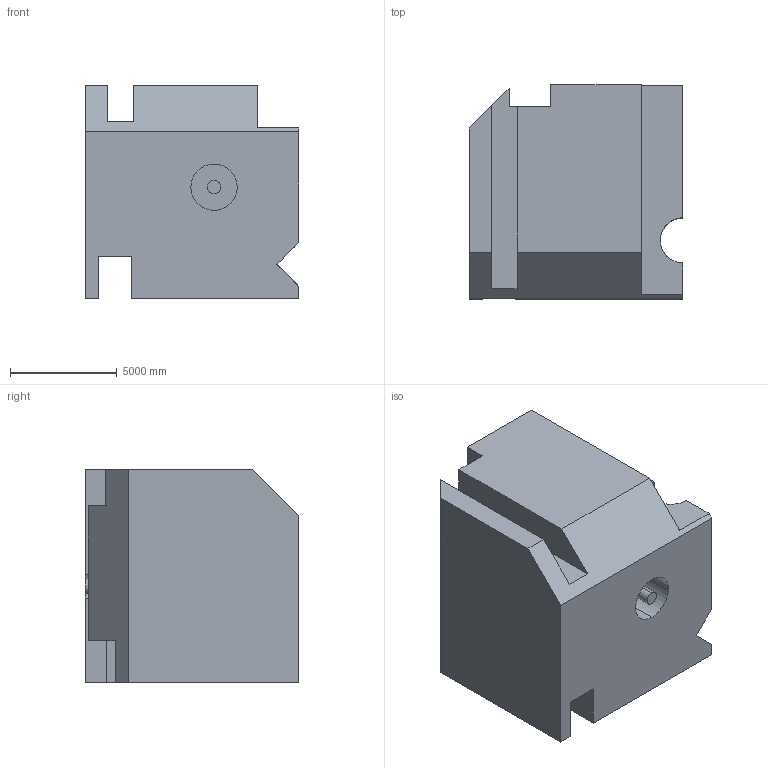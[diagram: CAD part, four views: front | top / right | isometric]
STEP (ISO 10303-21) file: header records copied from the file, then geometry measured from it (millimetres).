
FILE_DESCRIPTION (( 'STEP AP203' ), '1' );
FILE_NAME ('1927.STEP', '2022-08-23T09:34:19', ( 'user' ), ( '' ), 'SwSTEP 2.0', 'SolidWorks 2021', '' );
FILE_SCHEMA (( 'CONFIG_CONTROL_DESIGN' ));
Length unit declared in the file: centimetre
Products named in the file (1): 1927
Bounding box: 10000 x 10000 x 10000 mm (x, y, z)
Volume: 823097056806.9 mm3; surface area: 661979774.4 mm2
Topology: 1 solids, 1 shells, 43 faces, 114 edges, 76 vertices
Faces by surface type: plane 33, cylinder 10
Entity records: 1407 total; most frequent: CARTESIAN_POINT 246, ORIENTED_EDGE 228, DIRECTION 220, EDGE_CURVE 114, LINE 88, VECTOR 88, VERTEX_POINT 76, AXIS2_PLACEMENT_3D 66
